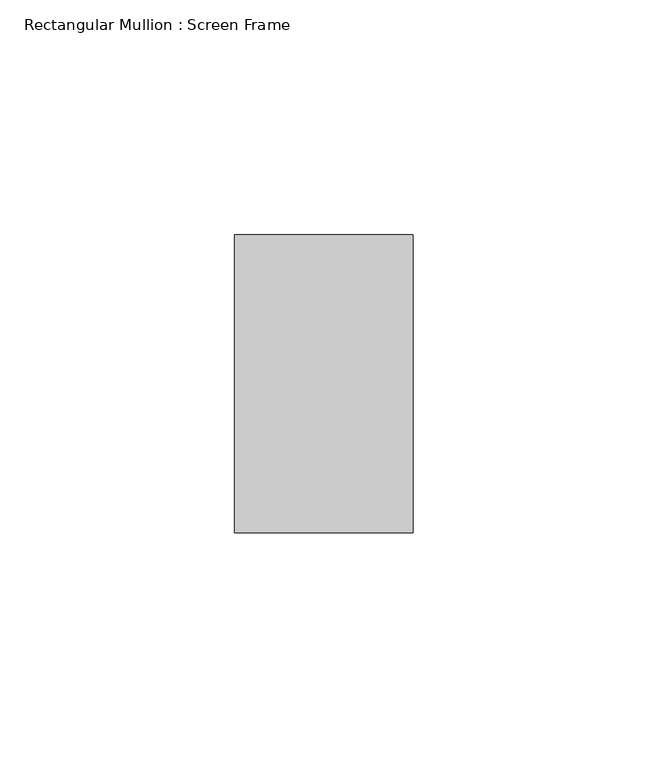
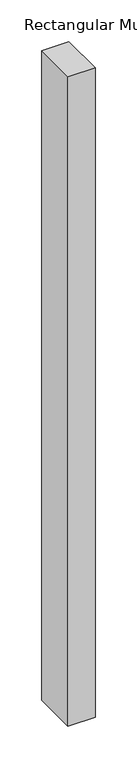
"""IFC4 building model written with IfcOpenShell, lengths in millimetres: member geometry, Rectangular Mullion : Screen Frame."""

from ifc_helpers import new_model, si_unit, frame, origin, place, context, project, spatial, polyline, outline, extrude, source, transform, mapped, element, save


def rectangular_mullion_screen_frame_9330c1cc(model_context):
    return source(origin(), model_context, "Body", "SweptSolid", [
        extrude(outline(polyline([(0.0, 31.75), (0.0, -31.75), (-38.1, -31.75), (-38.1, 31.75), (0.0, 31.75)])), frame((0.0, 0.0, -954.786), z_axis=(0.0, 0.0, 1.0), x_axis=(1.0, 0.0, 0.0)), (0.0, 0.0, 1.0), 954.786),
    ])


if __name__ == "__main__":
    model = new_model("IFC4")
    model_context = context("Model", 3, world=origin())
    ifc_project = project(units=[si_unit("LENGTHUNIT", "METRE", prefix="MILLI")], contexts=[model_context])
    site = spatial("IfcSite", under=ifc_project)
    building = spatial("IfcBuilding", under=site)
    placement = place(None, origin())
    rectangular_mullion_screen_frame_shape = rectangular_mullion_screen_frame_9330c1cc(model_context)
    element("IfcMember", 1, ObjectType="Rectangular Mullion : Screen Frame", at=placement, inside=building, context=model_context, shape_type="MappedRepresentation", body=[
        mapped(rectangular_mullion_screen_frame_shape, transform((0.0, 0.0, 0.0), x_axis=(1.0, 0.0, 0.0), y_axis=(0.0, 1.0, 0.0), z_axis=(0.0, 0.0, 1.0))),
    ])
    save(model, "model.ifc")
